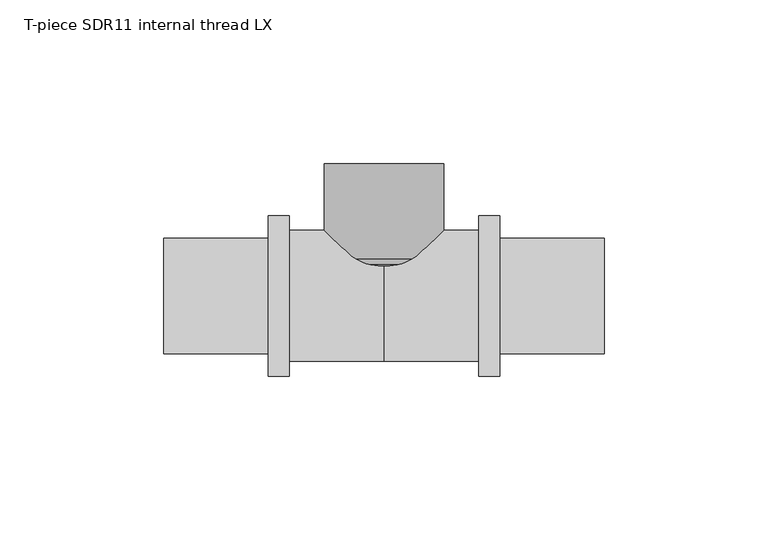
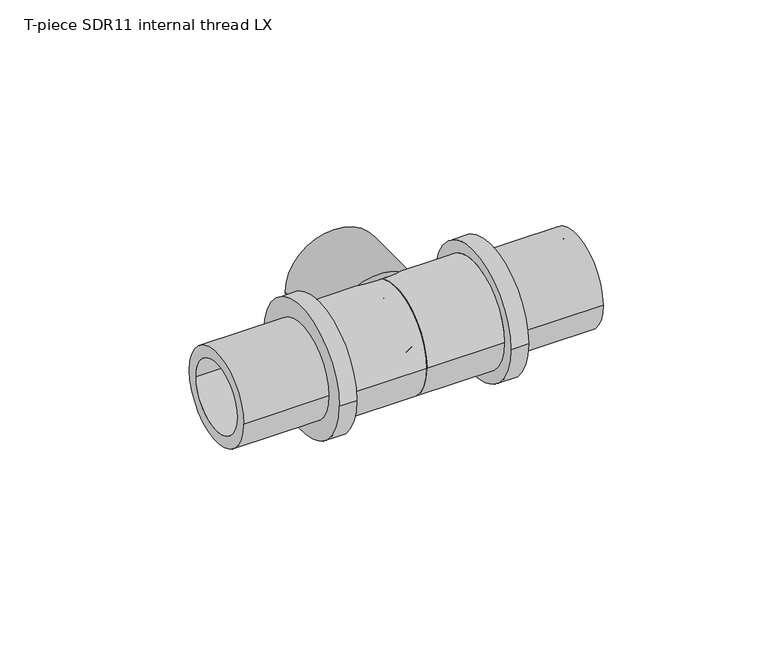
"""IFC4 building model written with IfcOpenShell, lengths in millimetres: pipe fitting geometry, T-piece SDR11 internal thread LX : T-piece LX SDR11 internal LX."""

from ifc_helpers import new_model, si_unit, point, frame, origin, place, context, project, spatial, polyline, circle_curve, ellipse_curve, trimmed, source, transform, mapped, element, save
from ifc_brep_helpers import plane_surface, cylinder_surface, revolved_surface, advanced_brep


def t_piece_sdr11_internal_thread_lx_99c0b33e(model_context):
    return source(origin(), model_context, "Body", "AdvancedBrep", [
        advanced_brep(
        [(12.9, 12.4, 0.0), (-12.9, 12.4, 0.0), (-12.9, 40.3, 0.0), (12.9, 40.3, 0.0), (0.5, 0.0, 0.0), (-0.5, 0.0, 0.0), (17.5183856, 9.452343, 0.0), (-17.5183856, 9.452343, 0.0), (-8.0660426, 0.0, 0.0), (8.0660426, 0.0, 0.0), (18.25, 11.2186165, 0.0), (-18.25, 11.2186165, 0.0), (18.25, 40.3, 0.0), (-18.25, 40.3, 0.0)],
        [
            (0, 1, circle_curve(frame((0.0, 12.4, 0.0), z_axis=(0.0, -1.0, 0.0), x_axis=(-1.0, 0.0, 0.0)), 12.9)),
            (1, 2),
            (2, 3, circle_curve(frame((0.0, 40.3, 0.0), z_axis=(0.0, 1.0, 0.0), x_axis=(-1.0, 0.0, 0.0)), 12.9)),
            (3, 0),
            (4, 5, circle_curve(frame((0.0, 0.0, 0.0), z_axis=(0.0, -1.0, 0.0), x_axis=(-1.0, 0.0, 0.0)), 0.5)),
            (5, 1),
            (0, 4),
            (6, 7, circle_curve(frame((0.0, 9.452343, 0.0), z_axis=(0.0, -1.0, 0.0), x_axis=(-1.0, 0.0, 0.0)), 17.5183856)),
            (7, 8),
            (8, 9, circle_curve(frame((0.0, 0.0, 0.0), z_axis=(0.0, 1.0, 0.0), x_axis=(-1.0, 0.0, 0.0)), 8.0660426)),
            (9, 6),
            (10, 11, circle_curve(frame((0.0, 11.2186165, 0.0), z_axis=(0.0, -1.0, 0.0), x_axis=(-1.0, 0.0, 0.0)), 18.25)),
            (11, 7, circle_curve(frame((-12.9, 12.4, 0.0), z_axis=(0.0, 0.0, 1.0), x_axis=(0.0, 1.0, 0.0)), 5.4788837)),
            (6, 10, circle_curve(frame((12.9, 12.4, 0.0), z_axis=(0.0, 0.0, 1.0), x_axis=(0.0, 1.0, 0.0)), 5.4788837)),
            (12, 13, circle_curve(frame((0.0, 40.3, 0.0), z_axis=(0.0, -1.0, 0.0), x_axis=(-1.0, 0.0, 0.0)), 18.25)),
            (13, 11),
            (10, 12),
            (12, 13, circle_curve(frame((0.0, 40.3, 0.0), z_axis=(0.0, 1.0, 0.0), x_axis=(1.0, 0.0, 0.0)), 18.25)),
            (2, 3, circle_curve(frame((0.0, 40.3, 0.0), z_axis=(0.0, -1.0, 0.0), x_axis=(1.0, 0.0, 0.0)), 12.9)),
            (1, 0, circle_curve(frame((0.0, 12.4, 0.0), z_axis=(0.0, -1.0, 0.0), x_axis=(1.0, 0.0, 0.0)), 12.9)),
            (5, 4, circle_curve(frame((0.0, 0.0, 0.0), z_axis=(0.0, -1.0, 0.0), x_axis=(1.0, 0.0, 0.0)), 0.5)),
            (8, 9, circle_curve(frame((0.0, 0.0, 0.0), z_axis=(0.0, -1.0, 0.0), x_axis=(1.0, 0.0, 0.0)), 8.0660426)),
            (7, 6, circle_curve(frame((0.0, 9.452343, 0.0), z_axis=(0.0, -1.0, 0.0), x_axis=(1.0, 0.0, 0.0)), 17.5183856)),
            (11, 10, circle_curve(frame((0.0, 11.2186165, 0.0), z_axis=(0.0, -1.0, 0.0), x_axis=(1.0, 0.0, 0.0)), 18.25)),
        ],
        [
            revolved_surface(polyline([(-12.9, 40.3, 0.0), (-12.9, 12.4, 0.0)]), (0.0, 0.0, 0.0), (0.0, 1.0, 0.0)),
            revolved_surface(polyline([(-12.9, 12.4, 0.0), (-0.5, 0.0, 0.0)]), (0.0, 0.0, 0.0), (0.0, 1.0, 0.0)),
            revolved_surface(polyline([(-8.0660426, 0.0, 0.0), (-17.5183856, 9.452343, 0.0)]), (0.0, 0.0, 0.0), (0.0, 1.0, 0.0)),
            revolved_surface(trimmed(ellipse_curve(frame((-12.9, 12.4, 0.0), z_axis=(0.0, 0.0, -1.0), x_axis=(0.0, 1.0, 0.0)), 5.4788837, 5.4788837), [point((-17.5183856, 9.452343, 0.0))], [point((-18.25, 11.2186165, 0.0))], True, "CARTESIAN"), (0.0, 0.0, 0.0), (0.0, 1.0, 0.0)),
            cylinder_surface(frame((0.0, 0.0, 0.0), z_axis=(0.0, 1.0, 0.0), x_axis=(-1.0, 0.0, 0.0)), 18.25),
            plane_surface(frame((0.0, 40.3, 0.0), z_axis=(0.0, 1.0, 0.0), x_axis=(1.0, 0.0, 0.0))),
            revolved_surface(polyline([(12.9, 40.3, 0.0), (12.9, 12.4, 0.0)]), (0.0, 0.0, 0.0), (0.0, 1.0, 0.0)),
            revolved_surface(polyline([(12.9, 12.4, 0.0), (0.5, 0.0, 0.0)]), (0.0, 0.0, 0.0), (0.0, 1.0, 0.0)),
            plane_surface(frame((0.0, 0.0, 0.0), z_axis=(0.0, -1.0, 0.0), x_axis=(1.0, 0.0, 0.0))),
            revolved_surface(polyline([(8.0660426, 0.0, 0.0), (17.5183856, 9.452343, 0.0)]), (0.0, 0.0, 0.0), (0.0, 1.0, 0.0)),
            revolved_surface(trimmed(ellipse_curve(frame((12.9, 12.4, 0.0), z_axis=(0.0, 0.0, 1.0), x_axis=(0.0, 1.0, 0.0)), 5.4788837, 5.4788837), [point((17.5183856, 9.452343, 0.0))], [point((18.25, 11.2186165, 0.0))], True, "CARTESIAN"), (0.0, 0.0, 0.0), (0.0, 1.0, 0.0)),
            cylinder_surface(frame((0.0, 0.0, 0.0), z_axis=(0.0, 1.0, 0.0), x_axis=(1.0, 0.0, 0.0)), 18.25),
        ],
        [
            (0, [[1, 2, 3, 4]]),
            (1, [[5, 6, -1, 7]]),
            (2, [[8, 9, 10, 11]]),
            (3, [[12, 13, -8, 14]]),
            (4, [[15, 16, -12, 17]]),
            (5, [[18, -15], [19, -3]]),
            (6, [[20, -4, -19, -2]]),
            (7, [[21, -7, -20, -6]]),
            (8, [[22, -10], [-21, -5]]),
            (9, [[23, -11, -22, -9]]),
            (10, [[24, -14, -23, -13]]),
            (11, [[-18, -17, -24, -16]]),
        ],
    ),
        advanced_brep(
        [(35.4, 24.5, 0.0), (35.4, -24.5, 0.0), (28.9, -24.5, 0.0), (28.9, 24.5, 0.0), (67.2, 17.65, 0.0), (67.2, -17.65, 0.0), (35.4, -17.65, 0.0), (35.4, 17.65, 0.0), (0.0, 13.3, 0.0), (0.0, -13.3, 0.0), (67.2, -13.3, 0.0), (67.2, 13.3, 0.0), (28.9, 20.0, 0.0), (28.9, -20.0, 0.0), (0.0, -20.0, 0.0), (0.0, 20.0, 0.0)],
        [
            (0, 1, circle_curve(frame((35.4, 0.0, 0.0), z_axis=(-1.0, 0.0, 0.0), x_axis=(0.0, -1.0, 0.0)), 24.5)),
            (1, 2),
            (2, 3, circle_curve(frame((28.9, 0.0, 0.0), z_axis=(1.0, 0.0, 0.0), x_axis=(0.0, -1.0, 0.0)), 24.5)),
            (3, 0),
            (4, 5, circle_curve(frame((67.2, 0.0, 0.0), z_axis=(-1.0, 0.0, 0.0), x_axis=(0.0, -1.0, 0.0)), 17.65)),
            (5, 6),
            (6, 7, circle_curve(frame((35.4, 0.0, 0.0), z_axis=(1.0, 0.0, 0.0), x_axis=(0.0, -1.0, 0.0)), 17.65)),
            (7, 4),
            (8, 9, circle_curve(frame((0.0, 0.0, 0.0), z_axis=(-1.0, 0.0, 0.0), x_axis=(0.0, -1.0, 0.0)), 13.3)),
            (9, 10),
            (10, 11, circle_curve(frame((67.2, 0.0, 0.0), z_axis=(1.0, 0.0, 0.0), x_axis=(0.0, -1.0, 0.0)), 13.3)),
            (11, 8),
            (12, 13, circle_curve(frame((28.9, 0.0, 0.0), z_axis=(-1.0, 0.0, 0.0), x_axis=(0.0, -1.0, 0.0)), 20.0)),
            (13, 14),
            (14, 15, circle_curve(frame((0.0, 0.0, 0.0), z_axis=(1.0, 0.0, 0.0), x_axis=(0.0, -1.0, 0.0)), 20.0)),
            (15, 12),
            (1, 0, circle_curve(frame((35.4, 0.0, 0.0), z_axis=(-1.0, 0.0, 0.0), x_axis=(0.0, 1.0, 0.0)), 24.5)),
            (3, 2, circle_curve(frame((28.9, 0.0, 0.0), z_axis=(1.0, 0.0, 0.0), x_axis=(0.0, 1.0, 0.0)), 24.5)),
            (6, 7, circle_curve(frame((35.4, 0.0, 0.0), z_axis=(-1.0, 0.0, 0.0), x_axis=(0.0, 1.0, 0.0)), 17.65)),
            (5, 4, circle_curve(frame((67.2, 0.0, 0.0), z_axis=(-1.0, 0.0, 0.0), x_axis=(0.0, 1.0, 0.0)), 17.65)),
            (10, 11, circle_curve(frame((67.2, 0.0, 0.0), z_axis=(-1.0, 0.0, 0.0), x_axis=(0.0, 1.0, 0.0)), 13.3)),
            (9, 8, circle_curve(frame((0.0, 0.0, 0.0), z_axis=(-1.0, 0.0, 0.0), x_axis=(0.0, 1.0, 0.0)), 13.3)),
            (14, 15, circle_curve(frame((0.0, 0.0, 0.0), z_axis=(-1.0, 0.0, 0.0), x_axis=(0.0, 1.0, 0.0)), 20.0)),
            (13, 12, circle_curve(frame((28.9, 0.0, 0.0), z_axis=(-1.0, 0.0, 0.0), x_axis=(0.0, 1.0, 0.0)), 20.0)),
        ],
        [
            cylinder_surface(frame((0.0, 0.0, 0.0), z_axis=(1.0, 0.0, 0.0), x_axis=(0.0, -1.0, 0.0)), 24.5),
            cylinder_surface(frame((0.0, 0.0, 0.0), z_axis=(1.0, 0.0, 0.0), x_axis=(0.0, -1.0, 0.0)), 17.65),
            revolved_surface(polyline([(67.2, -13.3, 0.0), (0.0, -13.3, 0.0)]), (0.0, 0.0, 0.0), (1.0, 0.0, 0.0)),
            cylinder_surface(frame((0.0, 0.0, 0.0), z_axis=(1.0, 0.0, 0.0), x_axis=(0.0, -1.0, 0.0)), 20.0),
            cylinder_surface(frame((0.0, 0.0, 0.0), z_axis=(1.0, 0.0, 0.0), x_axis=(0.0, 1.0, 0.0)), 24.5),
            plane_surface(frame((35.4, 0.0, 0.0), z_axis=(1.0, 0.0, 0.0), x_axis=(0.0, 1.0, 0.0))),
            cylinder_surface(frame((0.0, 0.0, 0.0), z_axis=(1.0, 0.0, 0.0), x_axis=(0.0, 1.0, 0.0)), 17.65),
            plane_surface(frame((67.2, 0.0, 0.0), z_axis=(1.0, 0.0, 0.0), x_axis=(0.0, 1.0, 0.0))),
            revolved_surface(polyline([(67.2, 13.3, 0.0), (0.0, 13.3, 0.0)]), (0.0, 0.0, 0.0), (1.0, 0.0, 0.0)),
            plane_surface(frame((0.0, 0.0, 0.0), z_axis=(-1.0, 0.0, 0.0), x_axis=(0.0, 1.0, 0.0))),
            cylinder_surface(frame((0.0, 0.0, 0.0), z_axis=(1.0, 0.0, 0.0), x_axis=(0.0, 1.0, 0.0)), 20.0),
            plane_surface(frame((28.9, 0.0, 0.0), z_axis=(-1.0, 0.0, 0.0), x_axis=(0.0, 1.0, 0.0))),
        ],
        [
            (0, [[1, 2, 3, 4]]),
            (1, [[5, 6, 7, 8]]),
            (2, [[9, 10, 11, 12]]),
            (3, [[13, 14, 15, 16]]),
            (4, [[17, -4, 18, -2]]),
            (5, [[-17, -1], [19, -7]]),
            (6, [[20, -8, -19, -6]]),
            (7, [[-20, -5], [21, -11]]),
            (8, [[22, -12, -21, -10]]),
            (9, [[23, -15], [-22, -9]]),
            (10, [[24, -16, -23, -14]]),
            (11, [[-18, -3], [-24, -13]]),
        ],
    ),
        advanced_brep(
        [(0.0, 20.0, 0.0), (0.0, -20.0, 0.0), (-28.9, -20.0, 0.0), (-28.9, 20.0, 0.0), (-67.2, 13.3, 0.0), (-67.2, -13.3, 0.0), (0.0, -13.3, 0.0), (0.0, 13.3, 0.0), (-35.4, 17.65, 0.0), (-35.4, -17.65, 0.0), (-67.2, -17.65, 0.0), (-67.2, 17.65, 0.0), (-28.9, 24.5, 0.0), (-28.9, -24.5, 0.0), (-35.4, -24.5, 0.0), (-35.4, 24.5, 0.0)],
        [
            (0, 1, circle_curve(frame((0.0, 0.0, 0.0), z_axis=(-1.0, 0.0, 0.0), x_axis=(0.0, -1.0, 0.0)), 20.0)),
            (1, 2),
            (2, 3, circle_curve(frame((-28.9, 0.0, 0.0), z_axis=(1.0, 0.0, 0.0), x_axis=(0.0, -1.0, 0.0)), 20.0)),
            (3, 0),
            (4, 5, circle_curve(frame((-67.2, 0.0, 0.0), z_axis=(-1.0, 0.0, 0.0), x_axis=(0.0, -1.0, 0.0)), 13.3)),
            (5, 6),
            (6, 7, circle_curve(frame((0.0, 0.0, 0.0), z_axis=(1.0, 0.0, 0.0), x_axis=(0.0, -1.0, 0.0)), 13.3)),
            (7, 4),
            (8, 9, circle_curve(frame((-35.4, 0.0, 0.0), z_axis=(-1.0, 0.0, 0.0), x_axis=(0.0, -1.0, 0.0)), 17.65)),
            (9, 10),
            (10, 11, circle_curve(frame((-67.2, 0.0, 0.0), z_axis=(1.0, 0.0, 0.0), x_axis=(0.0, -1.0, 0.0)), 17.65)),
            (11, 8),
            (12, 13, circle_curve(frame((-28.9, 0.0, 0.0), z_axis=(-1.0, 0.0, 0.0), x_axis=(0.0, -1.0, 0.0)), 24.5)),
            (13, 14),
            (14, 15, circle_curve(frame((-35.4, 0.0, 0.0), z_axis=(1.0, 0.0, 0.0), x_axis=(0.0, -1.0, 0.0)), 24.5)),
            (15, 12),
            (12, 13, circle_curve(frame((-28.9, 0.0, 0.0), z_axis=(1.0, 0.0, 0.0), x_axis=(0.0, 1.0, 0.0)), 24.5)),
            (2, 3, circle_curve(frame((-28.9, 0.0, 0.0), z_axis=(-1.0, 0.0, 0.0), x_axis=(0.0, 1.0, 0.0)), 20.0)),
            (1, 0, circle_curve(frame((0.0, 0.0, 0.0), z_axis=(-1.0, 0.0, 0.0), x_axis=(0.0, 1.0, 0.0)), 20.0)),
            (6, 7, circle_curve(frame((0.0, 0.0, 0.0), z_axis=(-1.0, 0.0, 0.0), x_axis=(0.0, 1.0, 0.0)), 13.3)),
            (5, 4, circle_curve(frame((-67.2, 0.0, 0.0), z_axis=(-1.0, 0.0, 0.0), x_axis=(0.0, 1.0, 0.0)), 13.3)),
            (10, 11, circle_curve(frame((-67.2, 0.0, 0.0), z_axis=(-1.0, 0.0, 0.0), x_axis=(0.0, 1.0, 0.0)), 17.65)),
            (9, 8, circle_curve(frame((-35.4, 0.0, 0.0), z_axis=(-1.0, 0.0, 0.0), x_axis=(0.0, 1.0, 0.0)), 17.65)),
            (14, 15, circle_curve(frame((-35.4, 0.0, 0.0), z_axis=(-1.0, 0.0, 0.0), x_axis=(0.0, 1.0, 0.0)), 24.5)),
        ],
        [
            cylinder_surface(frame((0.0, 0.0, 0.0), z_axis=(1.0, 0.0, 0.0), x_axis=(0.0, -1.0, 0.0)), 20.0),
            revolved_surface(polyline([(0.0, -13.3, 0.0), (-67.2, -13.3, 0.0)]), (0.0, 0.0, 0.0), (1.0, 0.0, 0.0)),
            cylinder_surface(frame((0.0, 0.0, 0.0), z_axis=(1.0, 0.0, 0.0), x_axis=(0.0, -1.0, 0.0)), 17.65),
            cylinder_surface(frame((0.0, 0.0, 0.0), z_axis=(1.0, 0.0, 0.0), x_axis=(0.0, -1.0, 0.0)), 24.5),
            plane_surface(frame((-28.9, 0.0, 0.0), z_axis=(1.0, 0.0, 0.0), x_axis=(0.0, 1.0, 0.0))),
            cylinder_surface(frame((0.0, 0.0, 0.0), z_axis=(1.0, 0.0, 0.0), x_axis=(0.0, 1.0, 0.0)), 20.0),
            plane_surface(frame((0.0, 0.0, 0.0), z_axis=(1.0, 0.0, 0.0), x_axis=(0.0, 1.0, 0.0))),
            revolved_surface(polyline([(0.0, 13.3, 0.0), (-67.2, 13.3, 0.0)]), (0.0, 0.0, 0.0), (1.0, 0.0, 0.0)),
            plane_surface(frame((-67.2, 0.0, 0.0), z_axis=(-1.0, 0.0, 0.0), x_axis=(0.0, 1.0, 0.0))),
            cylinder_surface(frame((0.0, 0.0, 0.0), z_axis=(1.0, 0.0, 0.0), x_axis=(0.0, 1.0, 0.0)), 17.65),
            plane_surface(frame((-35.4, 0.0, 0.0), z_axis=(-1.0, 0.0, 0.0), x_axis=(0.0, 1.0, 0.0))),
            cylinder_surface(frame((0.0, 0.0, 0.0), z_axis=(1.0, 0.0, 0.0), x_axis=(0.0, 1.0, 0.0)), 24.5),
        ],
        [
            (0, [[1, 2, 3, 4]]),
            (1, [[5, 6, 7, 8]]),
            (2, [[9, 10, 11, 12]]),
            (3, [[13, 14, 15, 16]]),
            (4, [[17, -13], [18, -3]]),
            (5, [[19, -4, -18, -2]]),
            (6, [[-19, -1], [20, -7]]),
            (7, [[21, -8, -20, -6]]),
            (8, [[22, -11], [-21, -5]]),
            (9, [[23, -12, -22, -10]]),
            (10, [[24, -15], [-23, -9]]),
            (11, [[-17, -16, -24, -14]]),
        ],
    ),
    ])


if __name__ == "__main__":
    model = new_model("IFC4")
    model_context = context("Model", 3, world=origin())
    ifc_project = project(units=[si_unit("LENGTHUNIT", "METRE", prefix="MILLI")], contexts=[model_context])
    site = spatial("IfcSite", under=ifc_project)
    building = spatial("IfcBuilding", under=site)
    placement = place(None, origin())
    t_piece_sdr11_internal_thread_lx_shape = t_piece_sdr11_internal_thread_lx_99c0b33e(model_context)
    element("IfcPipeFitting", 1, ObjectType="T-piece SDR11 internal thread LX : T-piece LX SDR11 internal LX", at=placement, inside=building, context=model_context, shape_type="MappedRepresentation", body=[
        mapped(t_piece_sdr11_internal_thread_lx_shape, transform((0.0, 0.0, 0.0), x_axis=(1.0, 0.0, 0.0), y_axis=(0.0, 1.0, 0.0), z_axis=(0.0, 0.0, 1.0))),
    ])
    save(model, "model.ifc")
